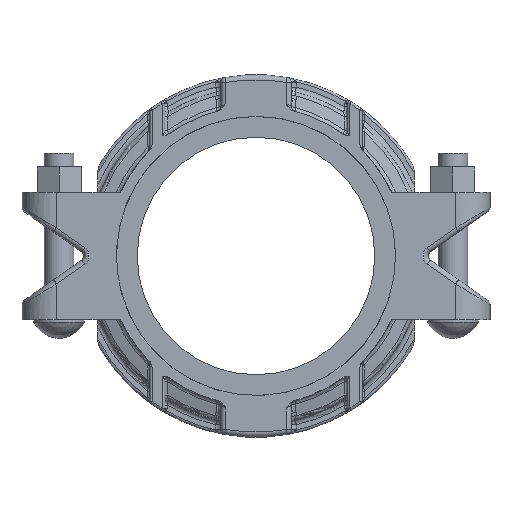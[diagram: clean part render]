
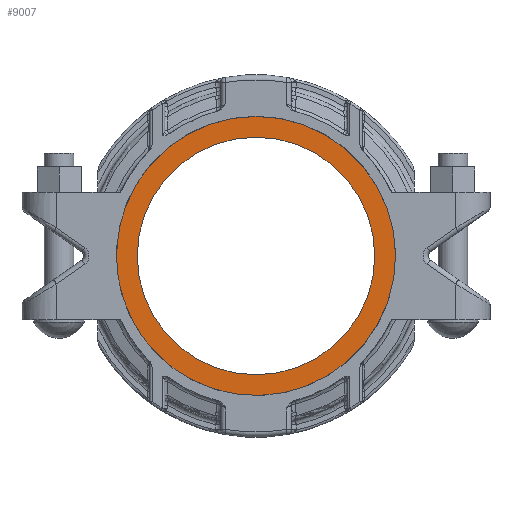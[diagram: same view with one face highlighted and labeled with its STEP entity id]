
A CAD part, top view. The second image highlights one B-rep face of the part: STEP entity #9007.
In plain terms, the highlighted planar face has unit normal (0, 0, 1).
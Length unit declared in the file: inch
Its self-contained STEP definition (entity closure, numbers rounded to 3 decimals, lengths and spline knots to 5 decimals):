
#1691=FACE_BOUND('',#2291,.T.);
#1710=FACE_OUTER_BOUND('',#2290,.T.);
#2290=EDGE_LOOP('',(#5630,#5631));
#2291=EDGE_LOOP('',(#5632));
#2886=CIRCLE('',#9608,3.03125);
#2887=CIRCLE('',#9610,3.5625);
#2888=CIRCLE('',#9611,3.5625);
#3475=VERTEX_POINT('',#13153);
#3476=VERTEX_POINT('',#13157);
#3477=VERTEX_POINT('',#13158);
#4269=EDGE_CURVE('',#3475,#3475,#2886,.T.);
#4270=EDGE_CURVE('',#3476,#3477,#2887,.T.);
#4271=EDGE_CURVE('',#3477,#3476,#2888,.T.);
#5630=ORIENTED_EDGE('',*,*,#4270,.F.);
#5631=ORIENTED_EDGE('',*,*,#4271,.F.);
#5632=ORIENTED_EDGE('',*,*,#4269,.T.);
#8341=PLANE('',#9609);
#9007=ADVANCED_FACE('',(#1710,#1691),#8341,.T.);
#9608=AXIS2_PLACEMENT_3D('',#13155,#10668,#10669);
#9609=AXIS2_PLACEMENT_3D('',#13156,#10670,#10671);
#9610=AXIS2_PLACEMENT_3D('',#13159,#10672,#10673);
#9611=AXIS2_PLACEMENT_3D('',#13160,#10674,#10675);
#10668=DIRECTION('center_axis',(0.,0.,-1.));
#10669=DIRECTION('ref_axis',(1.,0.,0.));
#10670=DIRECTION('center_axis',(0.,0.,1.));
#10671=DIRECTION('ref_axis',(-1.,0.,0.));
#10672=DIRECTION('center_axis',(0.,0.,-1.));
#10673=DIRECTION('ref_axis',(0.,-1.,0.));
#10674=DIRECTION('center_axis',(0.,0.,-1.));
#10675=DIRECTION('ref_axis',(0.,-1.,0.));
#13153=CARTESIAN_POINT('',(-3.03125,0.,0.0325));
#13155=CARTESIAN_POINT('Origin',(0.,0.,
0.0325));
#13156=CARTESIAN_POINT('Origin',(0.,0.,
0.0325));
#13157=CARTESIAN_POINT('',(-3.5625,0.,0.0325));
#13158=CARTESIAN_POINT('',(0.,3.5625,0.0325));
#13159=CARTESIAN_POINT('Origin',(0.,0.,
0.0325));
#13160=CARTESIAN_POINT('Origin',(0.,0.,
0.0325));
